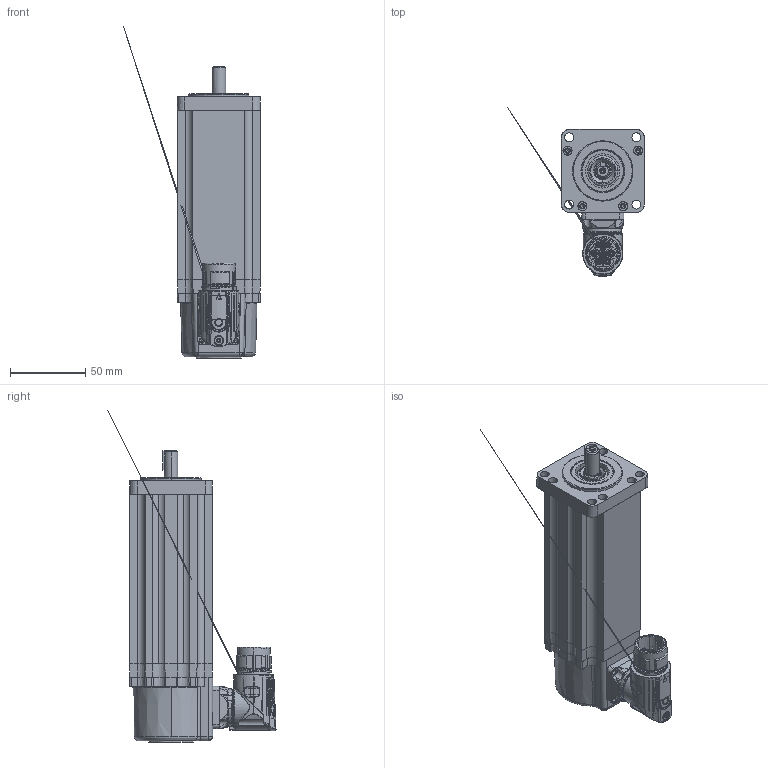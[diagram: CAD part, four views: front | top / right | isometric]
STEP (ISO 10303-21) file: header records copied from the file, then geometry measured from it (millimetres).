
FILE_DESCRIPTION (( 'STEP AP214' ), '1' );
FILE_NAME ('VPL-x0633x-xKx2xx.STEP', '2015-12-03T16:37:20', ( 'Rockwell Automation' ), ( 'Rockwell Automation' ), 'SwSTEP 2.0', 'SolidWorks 2015', '' );
FILE_SCHEMA (( 'AUTOMOTIVE_DESIGN' ));
Length unit declared in the file: metre
Products named in the file (17): 10000014325-2; 10000205680; 10000218251; 10000205607_ASM; 10000205605_AF0; 10000209692; 10000787052_ASM; 10000205674_AF100; 10000237824_ASM; 10000210259; VPL-x0633x-xKx2xx; 10000228474; 10000014325-M23_ASM; 10000014328-M23; 10000014326-M23_ASM; 10000014326-1; 10000014325-1
Assembly tree (19 placements, depth 4):
  VPL-x0633x-xKx2xx
    10000237824_ASM
      10000210259
    10000787052_ASM
      10000205674_AF100
    10000209692
    10000205607_ASM
      10000205605_AF0
    10000218251
    10000205680
    10000014325-M23_ASM
      10000014325-2
      10000014325-1
      10000014326-M23_ASM
        10000014326-1
      10000014328-M23  x4
    10000228474
Bounding box: 90.85 x 111.35 x 220.02 mm (x, y, z)
Volume: 78524.1 mm3; surface area: 111619.2 mm2
Topology: 10 solids, 32 shells, 2656 faces, 7494 edges, 4872 vertices
Faces by surface type: cylinder 926, bspline 729, plane 687, cone 304, torus 10
Entity records: 142548 total; most frequent: CARTESIAN_POINT 84829, ORIENTED_EDGE 14257, DIRECTION 8467, EDGE_CURVE 7158, VERTEX_POINT 4713, B_SPLINE_CURVE_WITH_KNOTS 3568, AXIS2_PLACEMENT_3D 3193, EDGE_LOOP 2730
